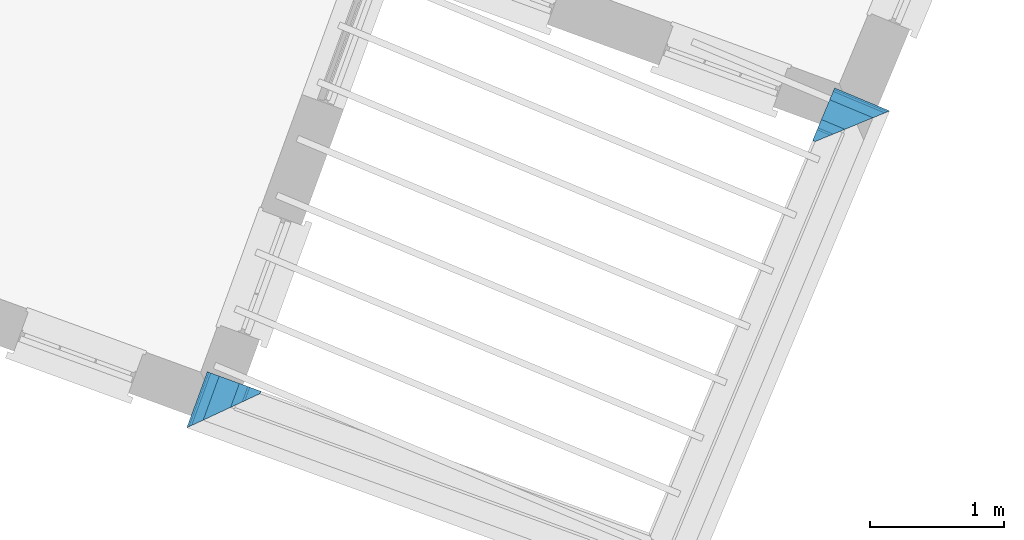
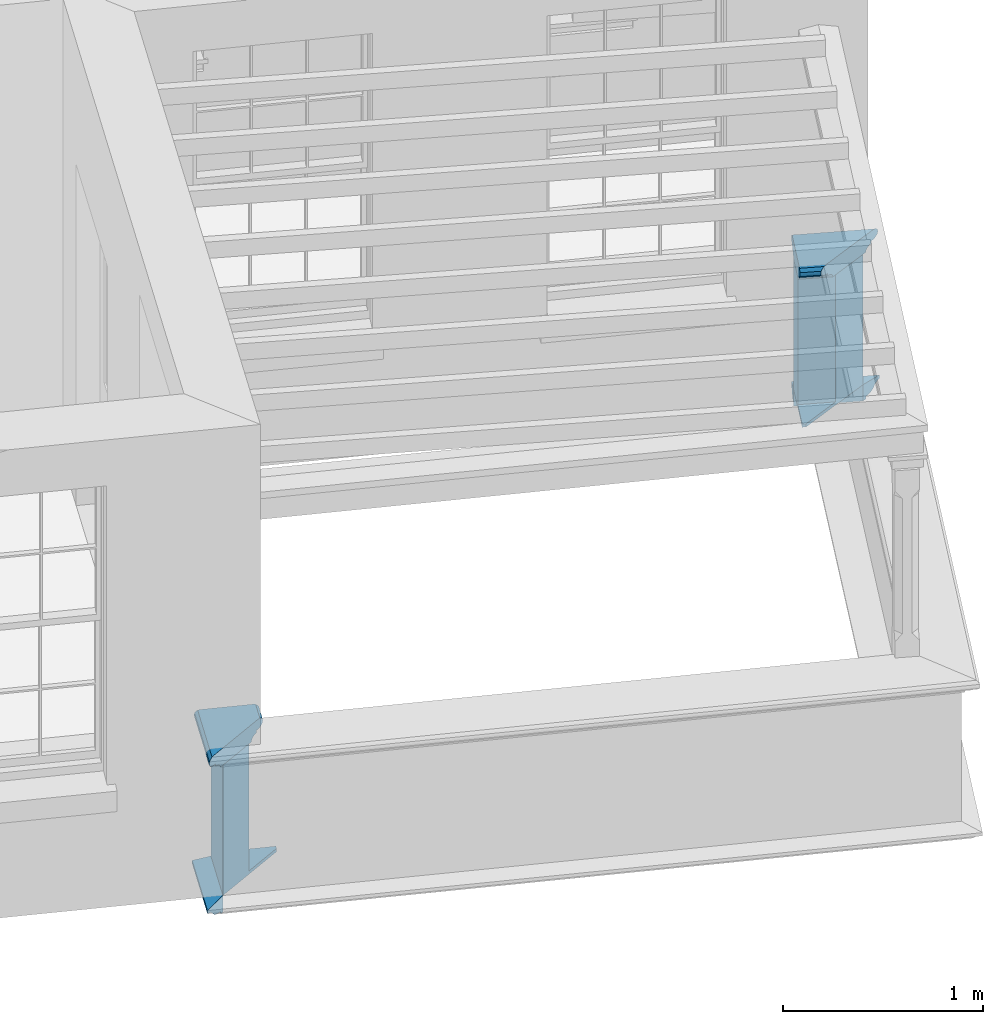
# One storey, part 5 of 7: 6 walls.
"""IFC4 building model written with IfcOpenShell, lengths in metres."""

from ifc_helpers import new_model, si_unit, frame, origin_with_axes, place, context, subcontext, project, spatial, polyline, outline, extrude, clip, halfspace, material_profile, profile_set, profile_usage, type_object, element, save


model = new_model("IFC4")

# Units and contexts
model_context = context("Model", 3, world=origin_with_axes())
body_context = subcontext(model_context, "Body", "Model", "MODEL_VIEW")
ifc_project = project(units=[si_unit("PLANEANGLEUNIT", "RADIAN"), si_unit("MASSUNIT", "GRAM", prefix="KILO"), si_unit("FORCEUNIT", "NEWTON", prefix="KILO"), si_unit("LENGTHUNIT", "METRE"), si_unit("AREAUNIT", "SQUARE_METRE"), si_unit("VOLUMEUNIT", "CUBIC_METRE")], contexts=[model_context, model_context])

# Sites, building, storey
site_1_placement = place(None, origin_with_axes())
site_1 = spatial("IfcSite", under=ifc_project, at=site_1_placement, Name="Tamar")
site_2_placement = place(site_1_placement, origin_with_axes())
site_2 = spatial("IfcSite", under=site_1, at=site_2_placement, Name="Site plot-13", CompositionType="ELEMENT")
building_placement = place(None, origin_with_axes())
building = spatial("IfcBuilding", under=site_2, at=building_placement, Name="Building plot-13", CompositionType="ELEMENT")
storey_placement = place(None, frame((0.0, 0.0, 29.0), z_axis=(0.0, 0.0, 1.0), x_axis=(1.0, 0.0, 0.0)))
storey = spatial("IfcBuildingStorey", under=building, at=storey_placement, Name="plot-13 1", CompositionType="ELEMENT", Elevation=29.0)

# Walls
ifc_material_profile_1 = material_profile(None, outline(polyline([(0.25, 0.0), (0.25, 0.795), (0.09, 0.795), (0.09, 0.02), (-0.08, 0.02), (-0.08, 0.0), (0.25, 0.0)])))
ifc_profile_set_1 = profile_set([ifc_material_profile_1])
ifc_profile_usage_1 = profile_usage(ifc_profile_set_1)
wall_type_1 = type_object("IfcWallType", Name="parapet_0", PredefinedType="PARAPET", material=ifc_profile_set_1)
wall_1_placement = place(storey_placement, frame((244.936927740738, 296.265994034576, 0.0), z_axis=(0.342734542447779, 0.939432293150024, 0.0), x_axis=(-0.939432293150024, 0.342734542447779, 0.0)))
element("IfcWall", 1, at=wall_1_placement, inside=storey, type_object=wall_type_1, material=ifc_profile_usage_1, Name="parapet_0", context=body_context, shape_type="Clipping", body=[
    clip(clip(extrude(outline(polyline([(0.25, 0.0), (0.25, 0.795), (0.09, 0.795), (0.09, 0.02), (-0.08, 0.02), (-0.08, 0.0), (0.25, 0.0)])), origin_with_axes(), (0.0, 0.0, 1.0), 2.10000000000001), halfspace(frame((0.0, 0.0, 1.10000000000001), z_axis=(-5.39030285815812e-15, 0.0, -1.0), x_axis=(0.0, 1.0, 0.0)), True)), halfspace(frame((0.0, 0.0, 1.0), z_axis=(-0.707106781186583, 0.0, -0.707106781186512), x_axis=(0.0, 1.0, 0.0)), False)),
])
ifc_profile_usage_2 = profile_usage(ifc_profile_set_1)
wall_2_placement = place(storey_placement, frame((248.612090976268, 299.600239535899, 0.0), z_axis=(0.922853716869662, -0.385150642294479, 0.0), x_axis=(0.385150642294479, 0.922853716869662, 0.0)))
element("IfcWall", 2, at=wall_2_placement, inside=storey, type_object=wall_type_1, material=ifc_profile_usage_2, Name="parapet_0", context=body_context, shape_type="Clipping", body=[
    clip(clip(extrude(outline(polyline([(0.25, 0.0), (0.25, 0.795), (0.09, 0.795), (0.09, 0.02), (-0.08, 0.02), (-0.08, 0.0), (0.25, 0.0)])), origin_with_axes(), (0.0, 0.0, 1.0), 2.09999999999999), halfspace(frame((0.0, 0.0, 1.09999999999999), z_axis=(0.707106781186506, 0.0, -0.707106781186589), x_axis=(0.0, 1.0, 0.0)), True)), halfspace(frame((0.0, 0.0, 1.0), z_axis=(8.82055185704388e-15, 0.0, -1.0), x_axis=(0.0, 1.0, 0.0)), False)),
])
ifc_material_profile_2 = material_profile(None, outline(polyline([(0.265, 0.795), (0.268, 0.807), (0.274, 0.816), (0.283, 0.822), (0.295, 0.825), (0.295, 0.84), (0.305, 0.84), (0.317, 0.842), (0.326, 0.849), (0.333, 0.858), (0.335, 0.87), (0.333, 0.882), (0.326, 0.891), (0.317, 0.898), (0.305, 0.9), (0.035, 0.9), (0.023, 0.898), (0.014, 0.891), (0.007, 0.882), (0.005, 0.87), (0.007, 0.858), (0.014, 0.849), (0.023, 0.842), (0.035, 0.84), (0.045, 0.84), (0.045, 0.825), (0.057, 0.822), (0.066, 0.816), (0.072, 0.807), (0.075, 0.795), (0.265, 0.795)])))
ifc_profile_set_2 = profile_set([ifc_material_profile_2])
ifc_profile_usage_3 = profile_usage(ifc_profile_set_2)
wall_type_2 = type_object("IfcWallType", Name="parapet_1", PredefinedType="PARAPET", material=ifc_profile_set_2)
wall_3_placement = place(storey_placement, frame((244.936927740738, 296.265994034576, 0.0), z_axis=(0.342734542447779, 0.939432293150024, 0.0), x_axis=(-0.939432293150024, 0.342734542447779, 0.0)))
element("IfcWall", 3, at=wall_3_placement, inside=storey, type_object=wall_type_2, material=ifc_profile_usage_3, Name="parapet_1", context=body_context, shape_type="Clipping", body=[
    clip(clip(extrude(outline(polyline([(0.265, 0.795), (0.268, 0.807), (0.274, 0.816), (0.283, 0.822), (0.295, 0.825), (0.295, 0.84), (0.305, 0.84), (0.317, 0.842), (0.326, 0.849), (0.333, 0.858), (0.335, 0.87), (0.333, 0.882), (0.326, 0.891), (0.317, 0.898), (0.305, 0.9), (0.035, 0.9), (0.023, 0.898), (0.014, 0.891), (0.007, 0.882), (0.005, 0.87), (0.007, 0.858), (0.014, 0.849), (0.023, 0.842), (0.035, 0.84), (0.045, 0.84), (0.045, 0.825), (0.057, 0.822), (0.066, 0.816), (0.072, 0.807), (0.075, 0.795), (0.265, 0.795)])), origin_with_axes(), (0.0, 0.0, 1.0), 2.10000000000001), halfspace(frame((0.0, 0.0, 1.10000000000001), z_axis=(-5.39030285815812e-15, 0.0, -1.0), x_axis=(0.0, 1.0, 0.0)), True)), halfspace(frame((0.0, 0.0, 1.0), z_axis=(-0.707106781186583, 0.0, -0.707106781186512), x_axis=(0.0, 1.0, 0.0)), False)),
])
ifc_profile_usage_4 = profile_usage(ifc_profile_set_2)
wall_4_placement = place(storey_placement, frame((248.612090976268, 299.600239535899, 0.0), z_axis=(0.922853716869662, -0.385150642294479, 0.0), x_axis=(0.385150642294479, 0.922853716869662, 0.0)))
element("IfcWall", 4, at=wall_4_placement, inside=storey, type_object=wall_type_2, material=ifc_profile_usage_4, Name="parapet_1", context=body_context, shape_type="Clipping", body=[
    clip(clip(extrude(outline(polyline([(0.265, 0.795), (0.268, 0.807), (0.274, 0.816), (0.283, 0.822), (0.295, 0.825), (0.295, 0.84), (0.305, 0.84), (0.317, 0.842), (0.326, 0.849), (0.333, 0.858), (0.335, 0.87), (0.333, 0.882), (0.326, 0.891), (0.317, 0.898), (0.305, 0.9), (0.035, 0.9), (0.023, 0.898), (0.014, 0.891), (0.007, 0.882), (0.005, 0.87), (0.007, 0.858), (0.014, 0.849), (0.023, 0.842), (0.035, 0.84), (0.045, 0.84), (0.045, 0.825), (0.057, 0.822), (0.066, 0.816), (0.072, 0.807), (0.075, 0.795), (0.265, 0.795)])), origin_with_axes(), (0.0, 0.0, 1.0), 2.09999999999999), halfspace(frame((0.0, 0.0, 1.09999999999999), z_axis=(0.707106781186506, 0.0, -0.707106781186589), x_axis=(0.0, 1.0, 0.0)), True)), halfspace(frame((0.0, 0.0, 1.0), z_axis=(8.82055185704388e-15, 0.0, -1.0), x_axis=(0.0, 1.0, 0.0)), False)),
])
ifc_material_profile_3 = material_profile(None, outline(polyline([(0.25, -0.1), (0.265, -0.1), (0.265, -0.085), (0.278, -0.084), (0.289, -0.081), (0.301, -0.074), (0.309, -0.065), (0.315, -0.055), (0.324, -0.044), (0.334, -0.038), (0.345, -0.035), (0.345, -0.015), (0.25, 0.0), (0.25, -0.1)])))
ifc_profile_set_3 = profile_set([ifc_material_profile_3])
ifc_profile_usage_5 = profile_usage(ifc_profile_set_3)
wall_type_3 = type_object("IfcWallType", Name="parapet_2", PredefinedType="PARAPET", material=ifc_profile_set_3)
wall_5_placement = place(storey_placement, frame((244.936927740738, 296.265994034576, 0.0), z_axis=(0.342734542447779, 0.939432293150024, 0.0), x_axis=(-0.939432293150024, 0.342734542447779, 0.0)))
element("IfcWall", 5, at=wall_5_placement, inside=storey, type_object=wall_type_3, material=ifc_profile_usage_5, Name="parapet_2", context=body_context, shape_type="Clipping", body=[
    clip(clip(extrude(outline(polyline([(0.25, -0.1), (0.265, -0.1), (0.265, -0.085), (0.278, -0.084), (0.289, -0.081), (0.301, -0.074), (0.309, -0.065), (0.315, -0.055), (0.324, -0.044), (0.334, -0.038), (0.345, -0.035), (0.345, -0.015), (0.25, 0.0), (0.25, -0.1)])), origin_with_axes(), (0.0, 0.0, 1.0), 2.10000000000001), halfspace(frame((0.0, 0.0, 1.10000000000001), z_axis=(-5.39030285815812e-15, 0.0, -1.0), x_axis=(0.0, 1.0, 0.0)), True)), halfspace(frame((0.0, 0.0, 1.0), z_axis=(-0.707106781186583, 0.0, -0.707106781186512), x_axis=(0.0, 1.0, 0.0)), False)),
])
ifc_profile_usage_6 = profile_usage(ifc_profile_set_3)
wall_6_placement = place(storey_placement, frame((248.612090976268, 299.600239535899, 0.0), z_axis=(0.922853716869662, -0.385150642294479, 0.0), x_axis=(0.385150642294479, 0.922853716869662, 0.0)))
element("IfcWall", 6, at=wall_6_placement, inside=storey, type_object=wall_type_3, material=ifc_profile_usage_6, Name="parapet_2", context=body_context, shape_type="Clipping", body=[
    clip(clip(extrude(outline(polyline([(0.25, -0.1), (0.265, -0.1), (0.265, -0.085), (0.278, -0.084), (0.289, -0.081), (0.301, -0.074), (0.309, -0.065), (0.315, -0.055), (0.324, -0.044), (0.334, -0.038), (0.345, -0.035), (0.345, -0.015), (0.25, 0.0), (0.25, -0.1)])), origin_with_axes(), (0.0, 0.0, 1.0), 2.09999999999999), halfspace(frame((0.0, 0.0, 1.09999999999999), z_axis=(0.707106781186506, 0.0, -0.707106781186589), x_axis=(0.0, 1.0, 0.0)), True)), halfspace(frame((0.0, 0.0, 1.0), z_axis=(8.82055185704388e-15, 0.0, -1.0), x_axis=(0.0, 1.0, 0.0)), False)),
])

save(model, "model.ifc")
